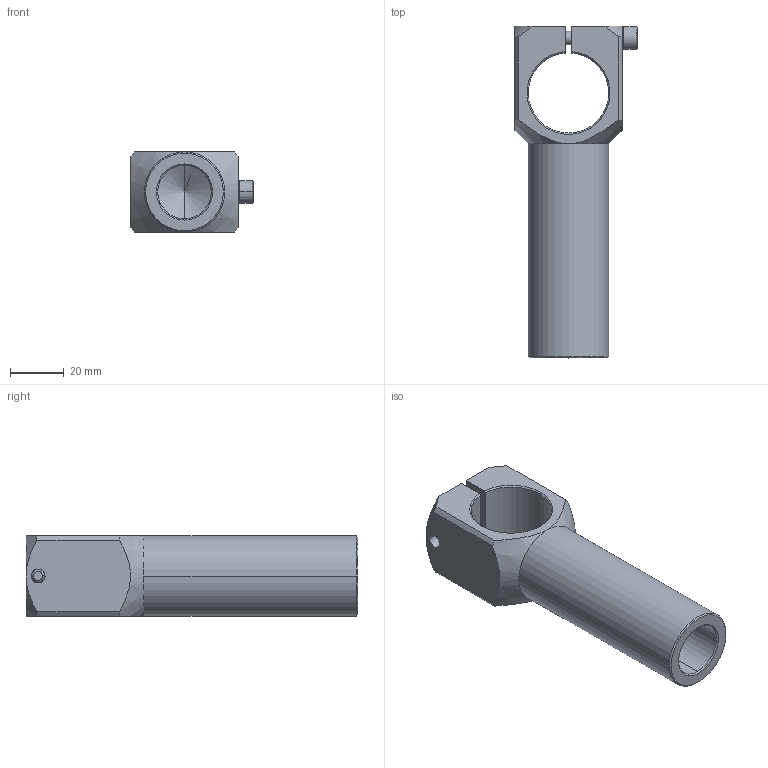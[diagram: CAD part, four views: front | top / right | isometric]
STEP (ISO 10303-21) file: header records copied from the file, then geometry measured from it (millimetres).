
FILE_DESCRIPTION (( 'STEP AP214' ), '1' );
FILE_NAME ('SCA1-3030L80.STEP', '2019-11-07T05:57:45', ( '微软用户' ), ( '微软中国' ), 'SwSTEP 2.0', 'SolidWorks 2016', '' );
FILE_SCHEMA (( 'AUTOMOTIVE_DESIGN' ));
Length unit declared in the file: millimetre
Products named in the file (1): SCA1-3030L80
Bounding box: 45.6 x 124 x 30 mm (x, y, z)
Volume: 62842.4 mm3; surface area: 23024.8 mm2
Topology: 3 solids, 3 shells, 256 faces, 726 edges, 475 vertices
Faces by surface type: plane 211, cylinder 23, cone 20, bspline 2
Entity records: 11446 total; most frequent: CARTESIAN_POINT 1743, DIRECTION 1462, ORIENTED_EDGE 1448, EDGE_CURVE 724, AXIS2_PLACEMENT_3D 505, VERTEX_POINT 475, LINE 452, VECTOR 452
